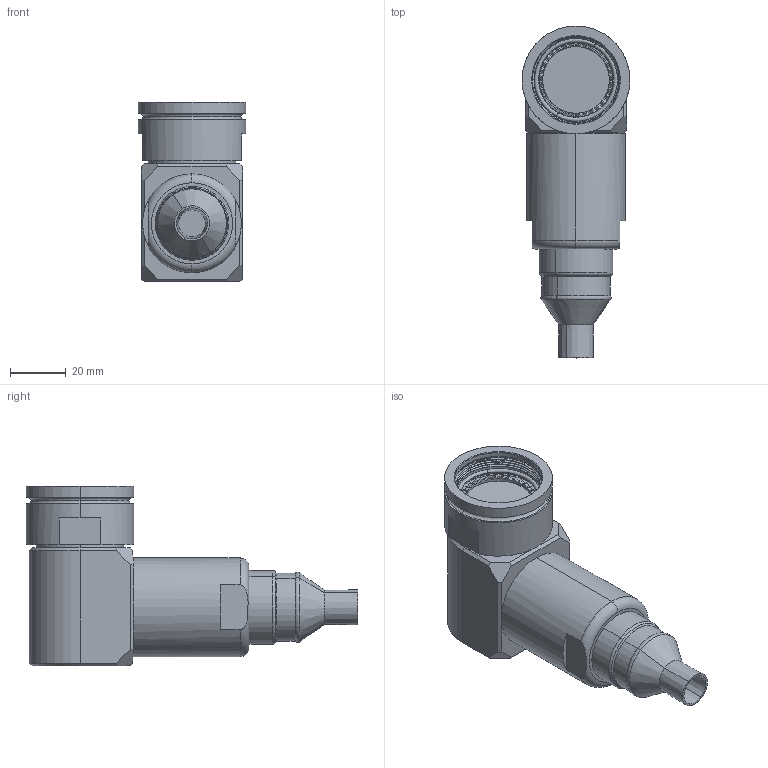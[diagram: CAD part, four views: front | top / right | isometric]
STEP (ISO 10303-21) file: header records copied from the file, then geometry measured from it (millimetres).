
FILE_DESCRIPTION (( 'STEP AP214' ), '1' );
FILE_NAME ('Q38EBSHELL-90X-21-XXXX-HX.STEP', '2025-09-19T15:41:54', ( '' ), ( '' ), 'SwSTEP 2.0', 'SolidWorks 2024', '' );
FILE_SCHEMA (( 'AUTOMOTIVE_DESIGN' ));
Length unit declared in the file: millimetre
Products named in the file (1): Q38EBSHELL-90X-21-XXXX-HX
Bounding box: 38.58 x 118.78 x 64.41 mm (x, y, z)
Volume: 118219.1 mm3; surface area: 22340.5 mm2
Topology: 2 solids, 4 shells, 267 faces, 698 edges, 454 vertices
Faces by surface type: plane 173, cylinder 45, cone 26, torus 14, bspline 9
Entity records: 10899 total; most frequent: CARTESIAN_POINT 4597, ORIENTED_EDGE 1396, DIRECTION 1295, EDGE_CURVE 698, AXIS2_PLACEMENT_3D 519, VERTEX_POINT 454, EDGE_LOOP 284, FACE_OUTER_BOUND 267
